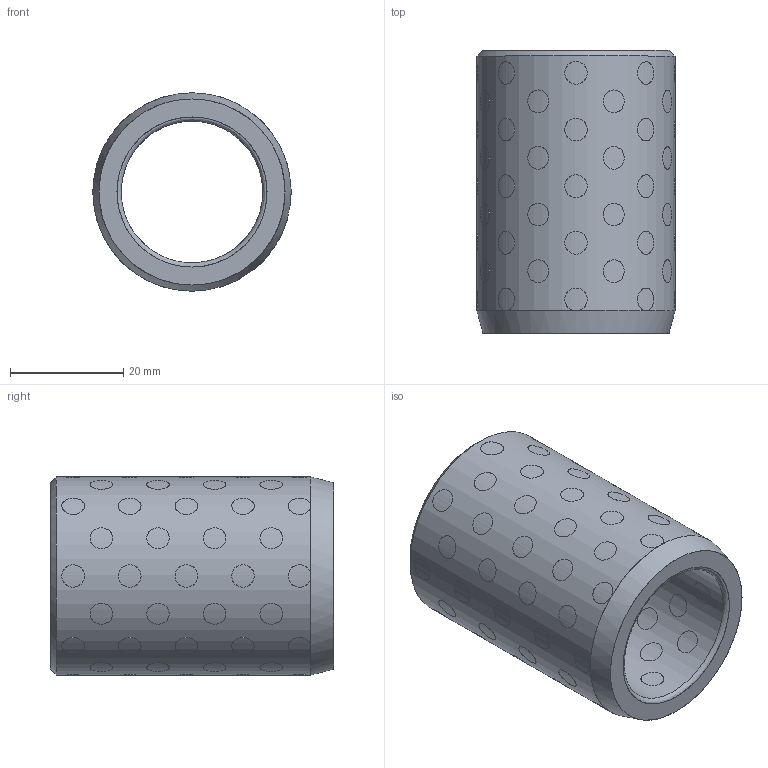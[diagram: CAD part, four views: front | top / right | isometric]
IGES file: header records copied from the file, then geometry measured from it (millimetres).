
Start section: Missler Software BP 521, 31674 Labege Cedex, France Tel   : +33 (0)5 61 00 03 00 Fax   : +33 (0)5 61 00 03 03 Email : sup.topsolid@topsolid.com
Global section: file name: D:\Cuma\18 03 2010\D30.04-2\D30.04_255035.igs; native system: TopSolid v605250 Missler Software; preprocessor: IGES preprocessor v100000; date: 030126.004634; units: millimetre
Bounding box: 35 x 50 x 35 mm (x, y, z)
Surface area: 17231.9 mm2 (no closed solid volume)
Topology: 0 solids, 0 shells, 248 faces, 5429 edges, 5264 vertices
Faces by surface type: bspline 248
